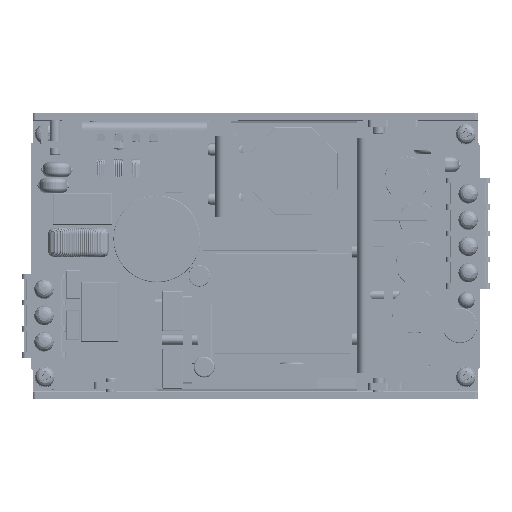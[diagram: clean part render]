
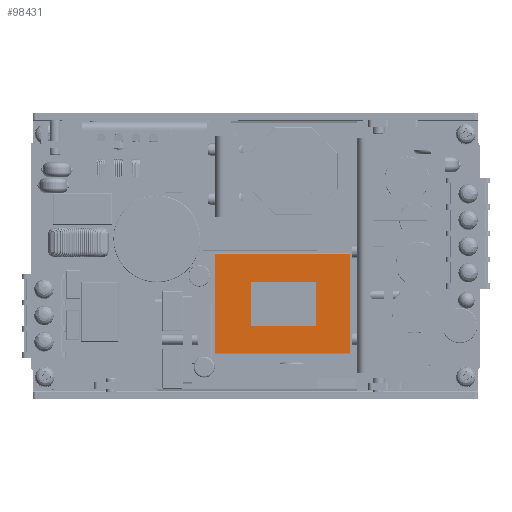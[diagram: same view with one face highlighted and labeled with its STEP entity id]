
A CAD part, top view. The second image highlights one B-rep face of the part: STEP entity #98431.
In plain terms, the highlighted planar face has unit normal (0, 0, 1).
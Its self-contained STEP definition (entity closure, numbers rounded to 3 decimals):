
#7204=FACE_BOUND($,#16971,.T.);
#7205=FACE_BOUND($,#16972,.T.);
#7748=PLANE($,#106316);
#16971=EDGE_LOOP($,(#64412,#64413,#64414,#64415));
#16972=EDGE_LOOP($,(#64416,#64417,#64418,#64419));
#24867=LINE($,#157849,#29461);
#24870=LINE($,#157855,#29464);
#24873=LINE($,#157861,#29467);
#24876=LINE($,#157865,#29470);
#25015=LINE($,#158233,#29609);
#25017=LINE($,#158241,#29611);
#25019=LINE($,#158247,#29613);
#25021=LINE($,#158252,#29615);
#29461=VECTOR($,#122332,12.539);
#29464=VECTOR($,#122337,18.524);
#29467=VECTOR($,#122342,12.539);
#29470=VECTOR($,#122347,18.524);
#29609=VECTOR($,#122716,38.294);
#29611=VECTOR($,#122724,28.374);
#29613=VECTOR($,#122730,38.294);
#29615=VECTOR($,#122736,28.374);
#41428=VERTEX_POINT($,#157846);
#41429=VERTEX_POINT($,#157848);
#41431=VERTEX_POINT($,#157854);
#41433=VERTEX_POINT($,#157860);
#41546=VERTEX_POINT($,#158231);
#41547=VERTEX_POINT($,#158232);
#41550=VERTEX_POINT($,#158240);
#41552=VERTEX_POINT($,#158246);
#49002=EDGE_CURVE($,#41429,#41428,#24867,.T.);
#49005=EDGE_CURVE($,#41431,#41429,#24870,.T.);
#49008=EDGE_CURVE($,#41433,#41431,#24873,.T.);
#49011=EDGE_CURVE($,#41428,#41433,#24876,.T.);
#49187=EDGE_CURVE($,#41546,#41547,#25015,.T.);
#49191=EDGE_CURVE($,#41547,#41550,#25017,.T.);
#49194=EDGE_CURVE($,#41550,#41552,#25019,.T.);
#49197=EDGE_CURVE($,#41552,#41546,#25021,.T.);
#64412=ORIENTED_EDGE($,*,*,#49002,.T.);
#64413=ORIENTED_EDGE($,*,*,#49011,.T.);
#64414=ORIENTED_EDGE($,*,*,#49008,.T.);
#64415=ORIENTED_EDGE($,*,*,#49005,.T.);
#64416=ORIENTED_EDGE($,*,*,#49187,.F.);
#64417=ORIENTED_EDGE($,*,*,#49197,.F.);
#64418=ORIENTED_EDGE($,*,*,#49194,.F.);
#64419=ORIENTED_EDGE($,*,*,#49191,.F.);
#98431=ADVANCED_FACE($,(#7204,#7205),#7748,.T.);
#106316=AXIS2_PLACEMENT_3D($,#158264,#122747,#122748);
#122332=DIRECTION($,(0.,1.,0.));
#122337=DIRECTION($,(-1.,0.,0.));
#122342=DIRECTION($,(0.,-1.,0.));
#122347=DIRECTION($,(1.,0.,0.));
#122716=DIRECTION($,(1.,0.,0.));
#122724=DIRECTION($,(0.,-1.,0.));
#122730=DIRECTION($,(-1.,0.,0.));
#122736=DIRECTION($,(0.,1.,0.));
#122747=DIRECTION('center_axis',(0.,0.,
1.));
#122748=DIRECTION('ref_axis',(1.,0.,0.));
#157846=CARTESIAN_POINT('',(62.385,30.647,22.6));
#157848=CARTESIAN_POINT('',(62.385,18.108,22.6));
#157849=CARTESIAN_POINT($,(62.385,27.547,22.6));
#157854=CARTESIAN_POINT('',(80.909,18.108,22.6));
#157855=CARTESIAN_POINT($,(66.83,18.108,22.6));
#157860=CARTESIAN_POINT('',(80.909,30.647,22.6));
#157861=CARTESIAN_POINT($,(80.909,21.277,22.6));
#157865=CARTESIAN_POINT($,(76.092,30.647,22.6));
#158231=CARTESIAN_POINT('',(52.127,38.633,22.6));
#158232=CARTESIAN_POINT('',(90.422,38.633,22.6));
#158233=CARTESIAN_POINT($,(61.601,38.633,22.6));
#158240=CARTESIAN_POINT('',(90.422,10.259,22.6));
#158241=CARTESIAN_POINT($,(90.422,31.639,22.6));
#158246=CARTESIAN_POINT('',(52.127,10.259,22.6));
#158247=CARTESIAN_POINT($,(80.948,10.259,22.6));
#158252=CARTESIAN_POINT($,(52.127,17.252,22.6));
#158264=CARTESIAN_POINT('Origin',(71.274,24.446,22.6));
